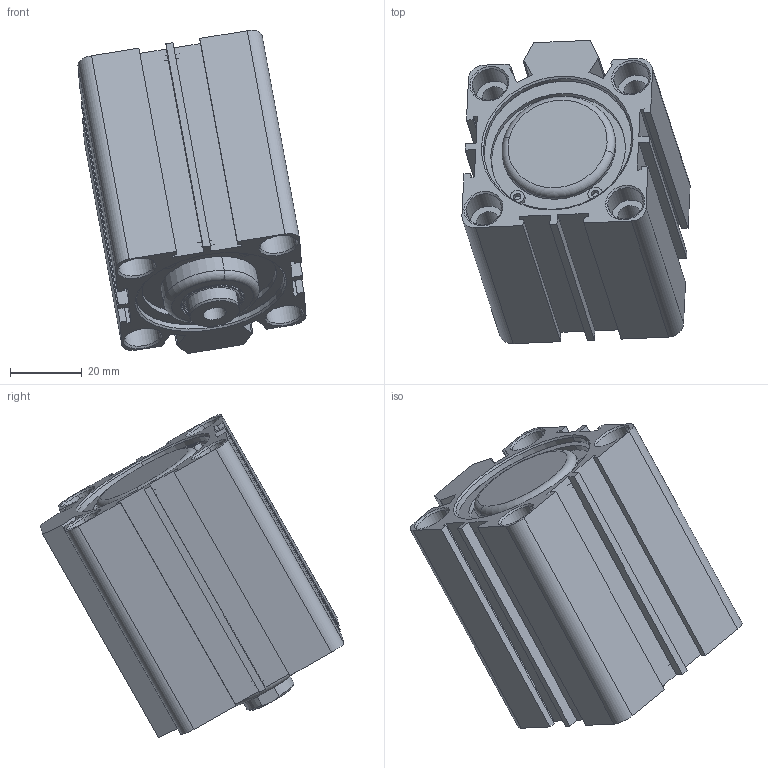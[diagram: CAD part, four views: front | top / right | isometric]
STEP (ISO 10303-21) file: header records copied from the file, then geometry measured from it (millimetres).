
FILE_DESCRIPTION (( 'STEP AP214' ), '1' );
FILE_NAME ('SDA_40_30_WEB.STEP', '2021-01-22T12:13:07', ( 'cagdas' ), ( '' ), 'SwSTEP 2.0', 'SolidWorks 2021', '' );
FILE_SCHEMA (( 'AUTOMOTIVE_DESIGN' ));
Length unit declared in the file: millimetre
Products named in the file (8): SDA40BOGAZKECESI; 16_MIL_WEB; SDA40SEGMAN; SDA40ARKAKAPAK; SDA40ONKAPAK; SDA_40_30_WEB; SDA_40_BORU_WEB; SDA40PAPYUZUK
Assembly tree (8 placements, depth 2):
  SDA_40_30_WEB
    SDA40ARKAKAPAK
    SDA40SEGMAN  x2
    SDA40ONKAPAK
    SDA40PAPYUZUK
    SDA40BOGAZKECESI
    SDA_40_BORU_WEB
    16_MIL_WEB
Bounding box: 63.58 x 84.48 x 90.06 mm (x, y, z)
Volume: 96803.3 mm3; surface area: 51671.6 mm2
Topology: 8 solids, 8 shells, 474 faces, 1175 edges, 758 vertices
Faces by surface type: plane 185, cylinder 128, bspline 85, cone 72, torus 4
Entity records: 19871 total; most frequent: CARTESIAN_POINT 7117, ORIENTED_EDGE 2254, DIRECTION 2025, EDGE_CURVE 1127, VERTEX_POINT 726, AXIS2_PLACEMENT_3D 698, LINE 629, VECTOR 629
